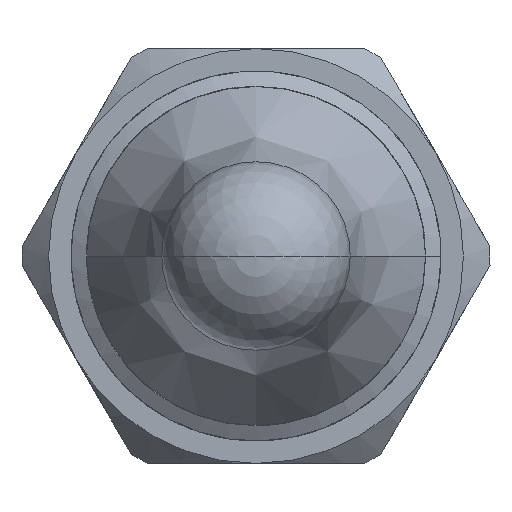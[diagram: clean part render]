
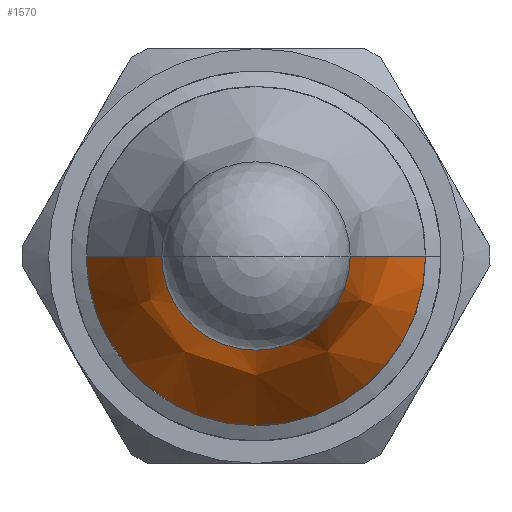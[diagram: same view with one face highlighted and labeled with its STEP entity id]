
A CAD part, front view. The second image highlights one B-rep face of the part: STEP entity #1570.
In plain terms, the highlighted free-form (B-spline) face has degree [2, 3] with [3, 4] control points.
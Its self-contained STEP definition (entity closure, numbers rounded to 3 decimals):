
#153 = B_SPLINE_CURVE_WITH_KNOTS ( 'NONE', 2,
 ( #5012, #4208, #241 ),
 .UNSPECIFIED., .F., .F.,
 ( 3, 3 ),
 ( 0., 0.667 ),
 .UNSPECIFIED. ) ;
#241 = CARTESIAN_POINT ( 'NONE',  ( 5., -198., 0. ) ) ;
#301 = CARTESIAN_POINT ( 'NONE',  ( 5.664, -193.124, -11.328 ) ) ;
#491 = EDGE_CURVE ( 'NONE', #3287, #2414, #4057, .T. ) ;
#573 = VERTEX_POINT ( 'NONE', #3218 ) ;
#756 = CARTESIAN_POINT ( 'NONE',  ( -5.664, -193.124, -11.328 ) ) ;
#887 = CARTESIAN_POINT ( 'NONE',  ( -8.99, -188.8, 0. ) ) ;
#895 = ORIENTED_EDGE ( 'NONE', *, *, #2789, .F. ) ;
#1085 = DIRECTION ( 'NONE',  ( -1., 0., 0. ) ) ;
#1116 = CARTESIAN_POINT ( 'NONE',  ( -8.99, -188.8, -17.98 ) ) ;
#1312 = CARTESIAN_POINT ( 'NONE',  ( -5., -198., 0. ) ) ;
#1522 = CARTESIAN_POINT ( 'NONE',  ( 5., -198., 0. ) ) ;
#1570 = ADVANCED_FACE ( 'NONE', ( #4002 ), #1863, .T. ) ;
#1679 = EDGE_LOOP ( 'NONE', ( #1744, #3019, #3065, #895 ) ) ;
#1733 = EDGE_CURVE ( 'NONE', #3287, #5001, #153, .T. ) ;
#1744 = ORIENTED_EDGE ( 'NONE', *, *, #491, .F. ) ;
#1815 = CIRCLE ( 'NONE', #4366, 5. ) ;
#1863 =( BOUNDED_SURFACE ( )  B_SPLINE_SURFACE ( 2, 3, ( 
 ( #3197, #2319, #1116, #4396 ),
 ( #3633, #301, #756, #2828 ),
 ( #1522, #2745, #4775, #4373 ) ),
 .UNSPECIFIED., .F., .F., .F. ) 
 B_SPLINE_SURFACE_WITH_KNOTS ( ( 3, 3 ),
 ( 4, 4 ),
 ( 0., 0.667 ),
 ( 0., 1. ),
 .UNSPECIFIED. ) 
 GEOMETRIC_REPRESENTATION_ITEM ( )  RATIONAL_B_SPLINE_SURFACE ( (
 ( 1., 0.333, 0.333, 1.),
 ( 1., 0.333, 0.333, 1.),
 ( 1., 0.333, 0.333, 1.) ) ) 
 REPRESENTATION_ITEM ( '' )  SURFACE ( )  );
#2319 = CARTESIAN_POINT ( 'NONE',  ( 8.99, -188.8, -17.98 ) ) ;
#2408 = CARTESIAN_POINT ( 'NONE',  ( 0., -198., 0. ) ) ;
#2414 = VERTEX_POINT ( 'NONE', #4266 ) ;
#2636 = CARTESIAN_POINT ( 'NONE',  ( 0., -188.8, 0. ) ) ;
#2683 = AXIS2_PLACEMENT_3D ( 'NONE', #2636, #5118, #1085 ) ;
#2695 = DIRECTION ( 'NONE',  ( -1., 0., 0. ) ) ;
#2736 = EDGE_CURVE ( 'NONE', #5001, #573, #1815, .T. ) ;
#2745 = CARTESIAN_POINT ( 'NONE',  ( 5., -198., -10. ) ) ;
#2789 = EDGE_CURVE ( 'NONE', #2414, #573, #4937, .T. ) ;
#2828 = CARTESIAN_POINT ( 'NONE',  ( -5.664, -193.124, 0. ) ) ;
#2887 = CARTESIAN_POINT ( 'NONE',  ( -5.664, -193.124, 0. ) ) ;
#3019 = ORIENTED_EDGE ( 'NONE', *, *, #1733, .T. ) ;
#3065 = ORIENTED_EDGE ( 'NONE', *, *, #2736, .T. ) ;
#3197 = CARTESIAN_POINT ( 'NONE',  ( 8.99, -188.8, 0. ) ) ;
#3218 = CARTESIAN_POINT ( 'NONE',  ( -5., -198., 0. ) ) ;
#3287 = VERTEX_POINT ( 'NONE', #3375 ) ;
#3375 = CARTESIAN_POINT ( 'NONE',  ( 8.99, -188.8, 0. ) ) ;
#3633 = CARTESIAN_POINT ( 'NONE',  ( 5.664, -193.124, 0. ) ) ;
#4002 = FACE_OUTER_BOUND ( 'NONE', #1679, .T. ) ;
#4033 = DIRECTION ( 'NONE',  ( 0., 1., 0. ) ) ;
#4057 = CIRCLE ( 'NONE', #2683, 8.99 ) ;
#4208 = CARTESIAN_POINT ( 'NONE',  ( 5.664, -193.124, 0. ) ) ;
#4266 = CARTESIAN_POINT ( 'NONE',  ( -8.99, -188.8, 0. ) ) ;
#4366 = AXIS2_PLACEMENT_3D ( 'NONE', #2408, #4033, #2695 ) ;
#4373 = CARTESIAN_POINT ( 'NONE',  ( -5., -198., 0. ) ) ;
#4396 = CARTESIAN_POINT ( 'NONE',  ( -8.99, -188.8, 0. ) ) ;
#4720 = CARTESIAN_POINT ( 'NONE',  ( 5., -198., 0. ) ) ;
#4775 = CARTESIAN_POINT ( 'NONE',  ( -5., -198., -10. ) ) ;
#4937 = B_SPLINE_CURVE_WITH_KNOTS ( 'NONE', 2,
 ( #887, #2887, #1312 ),
 .UNSPECIFIED., .F., .F.,
 ( 3, 3 ),
 ( 0., 0.667 ),
 .UNSPECIFIED. ) ;
#5001 = VERTEX_POINT ( 'NONE', #4720 ) ;
#5012 = CARTESIAN_POINT ( 'NONE',  ( 8.99, -188.8, 0. ) ) ;
#5118 = DIRECTION ( 'NONE',  ( 0., 1., 0. ) ) ;
